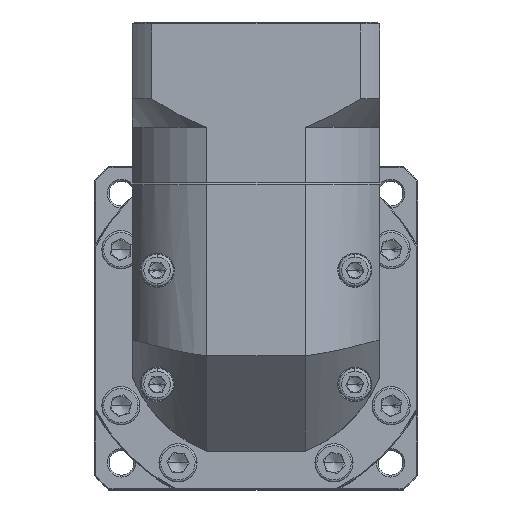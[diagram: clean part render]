
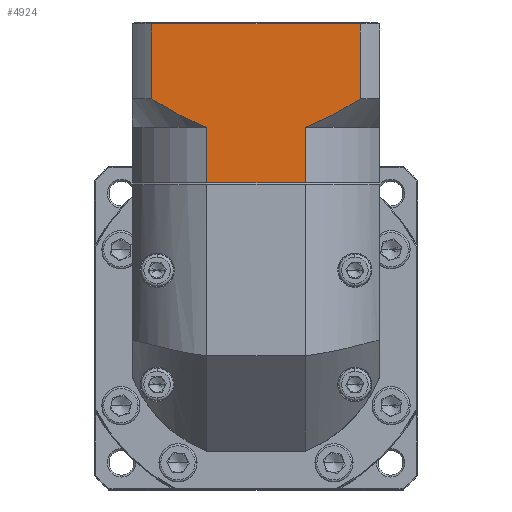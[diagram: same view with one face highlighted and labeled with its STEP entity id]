
A CAD part, top view. The second image highlights one B-rep face of the part: STEP entity #4924.
In plain terms, the highlighted planar face has unit normal (0, 0, 1).
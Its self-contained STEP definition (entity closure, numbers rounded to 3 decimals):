
#551 = AXIS2_PLACEMENT_3D ( 'NONE', #78201, #25592, #111518 ) ;
#2389 = CARTESIAN_POINT ( 'NONE',  ( -82.245, 79.689, 35.712 ) ) ;
#2873 = CARTESIAN_POINT ( 'NONE',  ( -90.831, 83.686, 35.712 ) ) ;
#3500 = B_SPLINE_CURVE_WITH_KNOTS ( 'NONE', 3,
 ( #68009, #33743, #78358, #108905, #2873, #66137, #34692, #2389 ),
 .UNSPECIFIED., .F., .F.,
 ( 4, 2, 2, 4 ),
 ( 0.058, 0.062, 0.066, 0.074 ),
 .UNSPECIFIED. ) ;
#4924 = ADVANCED_FACE ( 'NONE', ( #124197 ), #67349, .F. ) ;
#13613 = CARTESIAN_POINT ( 'NONE',  ( -50.032, 82.435, 35.712 ) ) ;
#14795 = EDGE_CURVE ( 'NONE', #129017, #69117, #103189, .T. ) ;
#17487 = CARTESIAN_POINT ( 'NONE',  ( -56.264, 65.189, 35.712 ) ) ;
#21493 = CARTESIAN_POINT ( 'NONE',  ( -56.264, 79.689, 35.712 ) ) ;
#23918 = CARTESIAN_POINT ( 'NONE',  ( -53.722, 80.705, 35.712 ) ) ;
#24789 = CARTESIAN_POINT ( 'NONE',  ( -56.264, 79.689, 35.712 ) ) ;
#25515 = EDGE_LOOP ( 'NONE', ( #35235, #82107, #86412, #117061, #83555, #26449, #30594, #102258 ) ) ;
#25592 = DIRECTION ( 'NONE',  ( 0., 0., -1. ) ) ;
#26449 = ORIENTED_EDGE ( 'NONE', *, *, #107028, .T. ) ;
#30594 = ORIENTED_EDGE ( 'NONE', *, *, #85080, .F. ) ;
#32129 = VERTEX_POINT ( 'NONE', #87091 ) ;
#33743 = CARTESIAN_POINT ( 'NONE',  ( -95.503, 86.455, 35.712 ) ) ;
#34691 = CARTESIAN_POINT ( 'NONE',  ( -53.098, 80.979, 35.712 ) ) ;
#34692 = CARTESIAN_POINT ( 'NONE',  ( -84.783, 80.631, 35.712 ) ) ;
#35235 = ORIENTED_EDGE ( 'NONE', *, *, #131119, .F. ) ;
#37328 = DIRECTION ( 'NONE',  ( 0., 1., 0. ) ) ;
#41138 = DIRECTION ( 'NONE',  ( -1., 0., 0. ) ) ;
#41572 = EDGE_CURVE ( 'NONE', #102924, #115776, #133563, .T. ) ;
#44852 = LINE ( 'NONE', #123581, #133928 ) ;
#46823 = DIRECTION ( 'NONE',  ( 0., -1., 0. ) ) ;
#47177 = EDGE_CURVE ( 'NONE', #32129, #137862, #100835, .T. ) ;
#64452 = EDGE_CURVE ( 'NONE', #120364, #137862, #3500, .T. ) ;
#65005 = CARTESIAN_POINT ( 'NONE',  ( -41.869, 87.189, 35.712 ) ) ;
#65239 = VECTOR ( 'NONE', #46823, 1000. ) ;
#66137 = CARTESIAN_POINT ( 'NONE',  ( -87.235, 81.775, 35.712 ) ) ;
#67349 = PLANE ( 'NONE',  #551 ) ;
#68009 = CARTESIAN_POINT ( 'NONE',  ( -96.641, 87.189, 35.712 ) ) ;
#69117 = VERTEX_POINT ( 'NONE', #70926 ) ;
#70016 = DIRECTION ( 'NONE',  ( 0., 1., 0. ) ) ;
#70926 = CARTESIAN_POINT ( 'NONE',  ( -96.641, 106.889, 35.712 ) ) ;
#71169 = VECTOR ( 'NONE', #41138, 1000. ) ;
#73853 = CARTESIAN_POINT ( 'NONE',  ( -96.641, 87.189, 35.712 ) ) ;
#75301 = DIRECTION ( 'NONE',  ( 1., 0., 0. ) ) ;
#75749 = CARTESIAN_POINT ( 'NONE',  ( -101.755, 65.189, 35.712 ) ) ;
#76006 = CARTESIAN_POINT ( 'NONE',  ( -44.137, 85.727, 35.712 ) ) ;
#76939 = CARTESIAN_POINT ( 'NONE',  ( -56.264, 79.689, 35.712 ) ) ;
#77386 = CARTESIAN_POINT ( 'NONE',  ( -55.622, 79.927, 35.712 ) ) ;
#78201 = CARTESIAN_POINT ( 'NONE',  ( -101.755, 107.389, 35.712 ) ) ;
#78358 = CARTESIAN_POINT ( 'NONE',  ( -94.352, 85.74, 35.712 ) ) ;
#82107 = ORIENTED_EDGE ( 'NONE', *, *, #14795, .T. ) ;
#83555 = ORIENTED_EDGE ( 'NONE', *, *, #47177, .F. ) ;
#85080 = EDGE_CURVE ( 'NONE', #102924, #100969, #132549, .T. ) ;
#86412 = ORIENTED_EDGE ( 'NONE', *, *, #134408, .F. ) ;
#87091 = CARTESIAN_POINT ( 'NONE',  ( -82.245, 65.189, 35.712 ) ) ;
#87205 = LINE ( 'NONE', #91042, #90511 ) ;
#88244 = CARTESIAN_POINT ( 'NONE',  ( -54.983, 80.18, 35.712 ) ) ;
#90511 = VECTOR ( 'NONE', #123452, 1000. ) ;
#90848 = CARTESIAN_POINT ( 'NONE',  ( -82.245, 79.689, 35.712 ) ) ;
#91042 = CARTESIAN_POINT ( 'NONE',  ( -41.869, 79.689, 35.712 ) ) ;
#95589 = CARTESIAN_POINT ( 'NONE',  ( -101.755, 106.889, 35.712 ) ) ;
#97187 = CARTESIAN_POINT ( 'NONE',  ( -46.451, 84.34, 35.712 ) ) ;
#97463 = VECTOR ( 'NONE', #37328, 1000. ) ;
#97636 = CARTESIAN_POINT ( 'NONE',  ( -41.869, 87.189, 35.712 ) ) ;
#99504 = CARTESIAN_POINT ( 'NONE',  ( -41.869, 106.889, 35.712 ) ) ;
#100835 = LINE ( 'NONE', #90848, #97463 ) ;
#100969 = VERTEX_POINT ( 'NONE', #17487 ) ;
#102258 = ORIENTED_EDGE ( 'NONE', *, *, #41572, .T. ) ;
#102924 = VERTEX_POINT ( 'NONE', #21493 ) ;
#103189 = LINE ( 'NONE', #95589, #71169 ) ;
#103364 = VECTOR ( 'NONE', #75301, 1000. ) ;
#107028 = EDGE_CURVE ( 'NONE', #32129, #100969, #121645, .T. ) ;
#108905 = CARTESIAN_POINT ( 'NONE',  ( -92.016, 84.356, 35.712 ) ) ;
#109833 = CARTESIAN_POINT ( 'NONE',  ( -51.244, 81.83, 35.712 ) ) ;
#111515 = CARTESIAN_POINT ( 'NONE',  ( -82.245, 79.689, 35.712 ) ) ;
#111518 = DIRECTION ( 'NONE',  ( 0., 1., 0. ) ) ;
#115776 = VERTEX_POINT ( 'NONE', #65005 ) ;
#117061 = ORIENTED_EDGE ( 'NONE', *, *, #64452, .T. ) ;
#120364 = VERTEX_POINT ( 'NONE', #73853 ) ;
#121645 = LINE ( 'NONE', #75749, #103364 ) ;
#123452 = DIRECTION ( 'NONE',  ( 0., -1., 0. ) ) ;
#123581 = CARTESIAN_POINT ( 'NONE',  ( -96.641, 79.689, 35.712 ) ) ;
#124197 = FACE_OUTER_BOUND ( 'NONE', #25515, .T. ) ;
#129017 = VERTEX_POINT ( 'NONE', #99504 ) ;
#131119 = EDGE_CURVE ( 'NONE', #129017, #115776, #87205, .T. ) ;
#132549 = LINE ( 'NONE', #24789, #65239 ) ;
#133563 = B_SPLINE_CURVE_WITH_KNOTS ( 'NONE', 3,
 ( #76939, #77386, #88244, #23918, #34691, #109833, #13613, #97187, #76006, #97636 ),
 .UNSPECIFIED., .F., .F.,
 ( 4, 2, 2, 2, 4 ),
 ( 0.101, 0.103, 0.105, 0.109, 0.117 ),
 .UNSPECIFIED. ) ;
#133928 = VECTOR ( 'NONE', #70016, 1000. ) ;
#134408 = EDGE_CURVE ( 'NONE', #120364, #69117, #44852, .T. ) ;
#137862 = VERTEX_POINT ( 'NONE', #111515 ) ;
